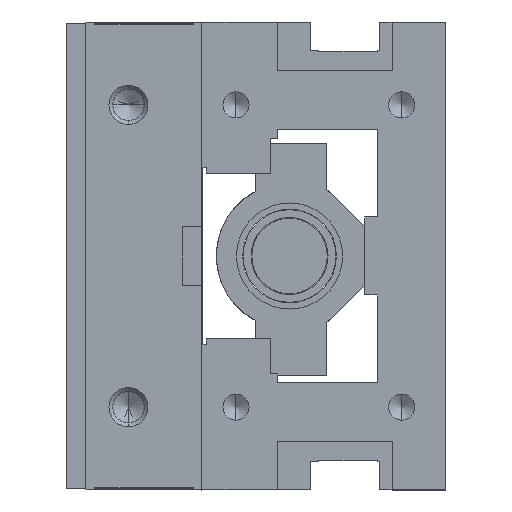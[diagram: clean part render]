
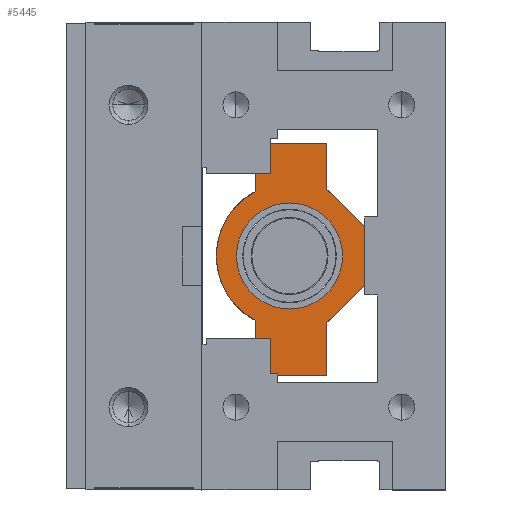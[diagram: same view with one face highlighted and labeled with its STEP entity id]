
A CAD part, left-side view. The second image highlights one B-rep face of the part: STEP entity #5445.
In plain terms, the highlighted planar face has unit normal (-1, 0, 0).
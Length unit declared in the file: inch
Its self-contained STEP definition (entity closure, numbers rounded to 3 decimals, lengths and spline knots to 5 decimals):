
#51 = EDGE_CURVE ( 'NONE', #19625, #13339, #5447, .T. ) ;
#276 = ORIENTED_EDGE ( 'NONE', *, *, #8086, .F. ) ;
#403 = EDGE_CURVE ( 'NONE', #10147, #18629, #1723, .T. ) ;
#570 = VERTEX_POINT ( 'NONE', #13417 ) ;
#738 = FACE_BOUND ( 'NONE', #19239, .T. ) ;
#783 = ORIENTED_EDGE ( 'NONE', *, *, #27511, .F. ) ;
#1035 = DIRECTION ( 'NONE',  ( 0., 0., 1. ) ) ;
#1193 = DIRECTION ( 'NONE',  ( 0., 0., -1. ) ) ;
#1291 = CARTESIAN_POINT ( 'NONE',  ( -1.243, 2.145, -1.53 ) ) ;
#1432 = VERTEX_POINT ( 'NONE', #7561 ) ;
#1634 = CARTESIAN_POINT ( 'NONE',  ( -1.243, 2.585, -0.82783 ) ) ;
#1723 = LINE ( 'NONE', #25200, #27598 ) ;
#1727 = VECTOR ( 'NONE', #18569, 39.37008 ) ;
#1761 = DIRECTION ( 'NONE',  ( 0., 1., 0. ) ) ;
#1999 = DIRECTION ( 'NONE',  ( 0., 0., -1. ) ) ;
#2162 = LINE ( 'NONE', #10786, #6009 ) ;
#2291 = PLANE ( 'NONE',  #12261 ) ;
#2847 = DIRECTION ( 'NONE',  ( 0., 0., -1. ) ) ;
#3026 = CARTESIAN_POINT ( 'NONE',  ( -1.243, 2.384, -1.53 ) ) ;
#3048 = VERTEX_POINT ( 'NONE', #13394 ) ;
#3615 = CARTESIAN_POINT ( 'NONE',  ( -1.243, 1.085, 0. ) ) ;
#3704 = VERTEX_POINT ( 'NONE', #1634 ) ;
#4007 = DIRECTION ( 'NONE',  ( 0., 0., -1. ) ) ;
#4500 = EDGE_CURVE ( 'NONE', #9661, #3048, #23735, .T. ) ;
#4746 = CARTESIAN_POINT ( 'NONE',  ( -1.243, 2.145, 0. ) ) ;
#4831 = DIRECTION ( 'NONE',  ( 1., 0., 0. ) ) ;
#5125 = LINE ( 'NONE', #9938, #1727 ) ;
#5445 = ADVANCED_FACE ( 'NONE', ( #7098, #738 ), #2291, .F. ) ;
#5447 = CIRCLE ( 'NONE', #23208, 0.68 ) ;
#5509 = LINE ( 'NONE', #1291, #15578 ) ;
#5840 = LINE ( 'NONE', #12742, #19937 ) ;
#5915 = ORIENTED_EDGE ( 'NONE', *, *, #9529, .F. ) ;
#5997 = CIRCLE ( 'NONE', #11863, 0.68 ) ;
#6009 = VECTOR ( 'NONE', #8538, 39.37008 ) ;
#6179 = ORIENTED_EDGE ( 'NONE', *, *, #22826, .F. ) ;
#6815 = EDGE_CURVE ( 'NONE', #1432, #570, #17483, .T. ) ;
#7098 = FACE_OUTER_BOUND ( 'NONE', #10616, .T. ) ;
#7554 = DIRECTION ( 'NONE',  ( 0., -0.707, -0.707 ) ) ;
#7561 = CARTESIAN_POINT ( 'NONE',  ( -1.243, 1.665, 1.44 ) ) ;
#8086 = EDGE_CURVE ( 'NONE', #570, #23437, #14318, .T. ) ;
#8136 = EDGE_CURVE ( 'NONE', #24506, #12980, #22538, .T. ) ;
#8317 = DIRECTION ( 'NONE',  ( 0., 0., 1. ) ) ;
#8358 = VECTOR ( 'NONE', #1035, 39.37008 ) ;
#8421 = VECTOR ( 'NONE', #8317, 39.37008 ) ;
#8434 = VECTOR ( 'NONE', #10847, 39.37008 ) ;
#8538 = DIRECTION ( 'NONE',  ( 0., -1., 0. ) ) ;
#8601 = CARTESIAN_POINT ( 'NONE',  ( -1.243, 2.145, 0.68 ) ) ;
#9365 = VECTOR ( 'NONE', #27177, 39.37008 ) ;
#9462 = ORIENTED_EDGE ( 'NONE', *, *, #22610, .F. ) ;
#9529 = EDGE_CURVE ( 'NONE', #3704, #14774, #13627, .T. ) ;
#9661 = VERTEX_POINT ( 'NONE', #20399 ) ;
#9938 = CARTESIAN_POINT ( 'NONE',  ( -1.243, 2.145, 1.44 ) ) ;
#10147 = VERTEX_POINT ( 'NONE', #14252 ) ;
#10171 = ORIENTED_EDGE ( 'NONE', *, *, #12239, .F. ) ;
#10616 = EDGE_LOOP ( 'NONE', ( #14871, #276, #18832, #20273, #24099, #20809, #9462, #5915, #22141, #15325, #10171, #6179, #25570, #783 ) ) ;
#10786 = CARTESIAN_POINT ( 'NONE',  ( -1.243, 2.145, 1.062 ) ) ;
#10847 = DIRECTION ( 'NONE',  ( 0., 0., 1. ) ) ;
#10974 = VECTOR ( 'NONE', #7554, 39.37008 ) ;
#11082 = DIRECTION ( 'NONE',  ( 0., 0., -1. ) ) ;
#11245 = EDGE_CURVE ( 'NONE', #26658, #9661, #2162, .T. ) ;
#11734 = EDGE_CURVE ( 'NONE', #23437, #24674, #24699, .T. ) ;
#11863 = AXIS2_PLACEMENT_3D ( 'NONE', #4746, #13496, #22145 ) ;
#12156 = VERTEX_POINT ( 'NONE', #3026 ) ;
#12239 = EDGE_CURVE ( 'NONE', #12156, #24506, #5840, .T. ) ;
#12261 = AXIS2_PLACEMENT_3D ( 'NONE', #15724, #4831, #2847 ) ;
#12742 = CARTESIAN_POINT ( 'NONE',  ( -1.243, 2.384, 0. ) ) ;
#12980 = VERTEX_POINT ( 'NONE', #24460 ) ;
#13339 = VERTEX_POINT ( 'NONE', #15517 ) ;
#13394 = CARTESIAN_POINT ( 'NONE',  ( -1.243, 2.395, 1.44 ) ) ;
#13417 = CARTESIAN_POINT ( 'NONE',  ( -1.243, 1.665, 0.85 ) ) ;
#13496 = DIRECTION ( 'NONE',  ( -1., 0., 0. ) ) ;
#13627 = CIRCLE ( 'NONE', #22670, 0.9375 ) ;
#14252 = CARTESIAN_POINT ( 'NONE',  ( -1.243, 1.665, -0.85 ) ) ;
#14318 = LINE ( 'NONE', #22966, #10974 ) ;
#14664 = CARTESIAN_POINT ( 'NONE',  ( -1.243, 2.395, 0. ) ) ;
#14743 = DIRECTION ( 'NONE',  ( 0., 0., 1. ) ) ;
#14770 = CARTESIAN_POINT ( 'NONE',  ( -1.243, 1.085, 0.27 ) ) ;
#14774 = VERTEX_POINT ( 'NONE', #19758 ) ;
#14819 = VECTOR ( 'NONE', #1193, 39.37008 ) ;
#14871 = ORIENTED_EDGE ( 'NONE', *, *, #11734, .F. ) ;
#15031 = CARTESIAN_POINT ( 'NONE',  ( -1.243, 2.145, 0. ) ) ;
#15325 = ORIENTED_EDGE ( 'NONE', *, *, #8136, .F. ) ;
#15517 = CARTESIAN_POINT ( 'NONE',  ( -1.243, 2.145, -0.68 ) ) ;
#15578 = VECTOR ( 'NONE', #25041, 39.37008 ) ;
#15601 = CARTESIAN_POINT ( 'NONE',  ( -1.243, 2.145, 0. ) ) ;
#15724 = CARTESIAN_POINT ( 'NONE',  ( -1.243, 2.145, 0. ) ) ;
#15920 = CARTESIAN_POINT ( 'NONE',  ( -1.243, 2.585, 1.062 ) ) ;
#16062 = EDGE_CURVE ( 'NONE', #3048, #1432, #5125, .T. ) ;
#16306 = CARTESIAN_POINT ( 'NONE',  ( -1.243, 2.585, 1.062 ) ) ;
#16669 = CARTESIAN_POINT ( 'NONE',  ( -1.243, 1.665, -1.53 ) ) ;
#17483 = LINE ( 'NONE', #18586, #14819 ) ;
#17506 = EDGE_CURVE ( 'NONE', #12980, #3704, #20035, .T. ) ;
#18460 = CARTESIAN_POINT ( 'NONE',  ( -1.243, 2.145, -1.062 ) ) ;
#18569 = DIRECTION ( 'NONE',  ( 0., -1., 0. ) ) ;
#18586 = CARTESIAN_POINT ( 'NONE',  ( -1.243, 1.665, 0. ) ) ;
#18629 = VERTEX_POINT ( 'NONE', #16669 ) ;
#18823 = CARTESIAN_POINT ( 'NONE',  ( -1.243, 1.085, -0.27 ) ) ;
#18832 = ORIENTED_EDGE ( 'NONE', *, *, #6815, .F. ) ;
#19070 = VECTOR ( 'NONE', #24563, 39.37008 ) ;
#19239 = EDGE_LOOP ( 'NONE', ( #27205, #27737 ) ) ;
#19625 = VERTEX_POINT ( 'NONE', #8601 ) ;
#19758 = CARTESIAN_POINT ( 'NONE',  ( -1.243, 2.585, 0.82783 ) ) ;
#19937 = VECTOR ( 'NONE', #14743, 39.37008 ) ;
#20035 = LINE ( 'NONE', #26010, #8434 ) ;
#20273 = ORIENTED_EDGE ( 'NONE', *, *, #16062, .F. ) ;
#20399 = CARTESIAN_POINT ( 'NONE',  ( -1.243, 2.395, 1.062 ) ) ;
#20682 = CARTESIAN_POINT ( 'NONE',  ( -1.243, 1.085, -0.27 ) ) ;
#20809 = ORIENTED_EDGE ( 'NONE', *, *, #11245, .F. ) ;
#20946 = EDGE_CURVE ( 'NONE', #13339, #19625, #5997, .T. ) ;
#22141 = ORIENTED_EDGE ( 'NONE', *, *, #17506, .F. ) ;
#22145 = DIRECTION ( 'NONE',  ( 0., 0., -1. ) ) ;
#22382 = DIRECTION ( 'NONE',  ( 1., 0., 0. ) ) ;
#22538 = LINE ( 'NONE', #18460, #26792 ) ;
#22610 = EDGE_CURVE ( 'NONE', #14774, #26658, #22810, .T. ) ;
#22670 = AXIS2_PLACEMENT_3D ( 'NONE', #15601, #22382, #11082 ) ;
#22810 = LINE ( 'NONE', #16306, #8358 ) ;
#22826 = EDGE_CURVE ( 'NONE', #18629, #12156, #5509, .T. ) ;
#22966 = CARTESIAN_POINT ( 'NONE',  ( -1.243, 1.665, 0.85 ) ) ;
#23208 = AXIS2_PLACEMENT_3D ( 'NONE', #15031, #23389, #4007 ) ;
#23389 = DIRECTION ( 'NONE',  ( -1., 0., 0. ) ) ;
#23437 = VERTEX_POINT ( 'NONE', #14770 ) ;
#23735 = LINE ( 'NONE', #14664, #8421 ) ;
#24099 = ORIENTED_EDGE ( 'NONE', *, *, #4500, .F. ) ;
#24460 = CARTESIAN_POINT ( 'NONE',  ( -1.243, 2.585, -1.062 ) ) ;
#24506 = VERTEX_POINT ( 'NONE', #26092 ) ;
#24563 = DIRECTION ( 'NONE',  ( 0., 0., -1. ) ) ;
#24674 = VERTEX_POINT ( 'NONE', #20682 ) ;
#24699 = LINE ( 'NONE', #3615, #19070 ) ;
#24771 = LINE ( 'NONE', #18823, #9365 ) ;
#25041 = DIRECTION ( 'NONE',  ( 0., 1., 0. ) ) ;
#25200 = CARTESIAN_POINT ( 'NONE',  ( -1.243, 1.665, 0. ) ) ;
#25570 = ORIENTED_EDGE ( 'NONE', *, *, #403, .F. ) ;
#26010 = CARTESIAN_POINT ( 'NONE',  ( -1.243, 2.585, 0. ) ) ;
#26092 = CARTESIAN_POINT ( 'NONE',  ( -1.243, 2.384, -1.062 ) ) ;
#26658 = VERTEX_POINT ( 'NONE', #15920 ) ;
#26792 = VECTOR ( 'NONE', #1761, 39.37008 ) ;
#27177 = DIRECTION ( 'NONE',  ( 0., 0.707, -0.707 ) ) ;
#27205 = ORIENTED_EDGE ( 'NONE', *, *, #20946, .F. ) ;
#27511 = EDGE_CURVE ( 'NONE', #24674, #10147, #24771, .T. ) ;
#27598 = VECTOR ( 'NONE', #1999, 39.37008 ) ;
#27737 = ORIENTED_EDGE ( 'NONE', *, *, #51, .F. ) ;
